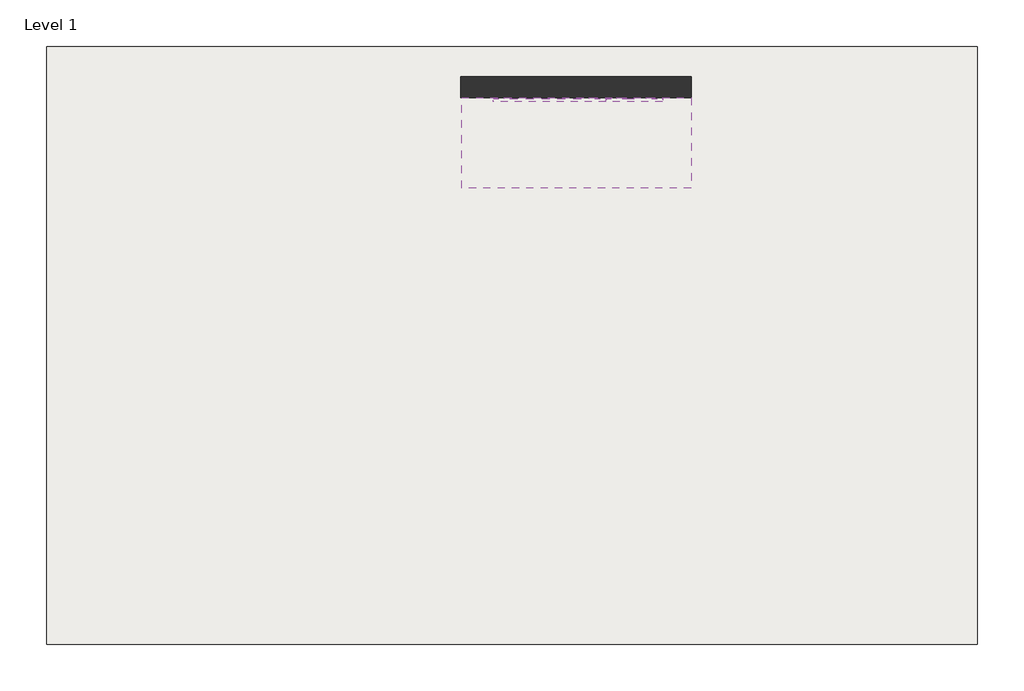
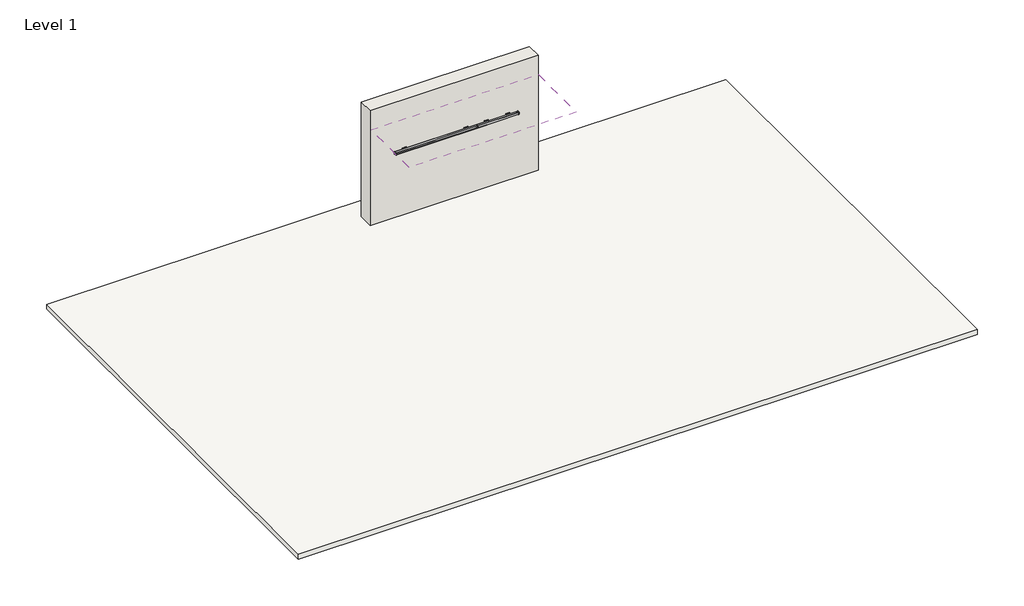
# One storey: 2 light fixtures, 1 covering, 1 slab, 1 wall.
"""IFC4 building model written with IfcOpenShell, lengths in millimetres."""

from ifc_helpers import new_model, si_unit, frame, origin, origin_with_axes, place, context, project, spatial, polyline, outline, extrude, transform, mapped, element, save
from components import lighting_wall_axis_extend_2_a71a7cbf, lighting_wall_axis_extend_2_fdb779e1

model = new_model("IFC4")

# Units and contexts
model_context = context("Model", 3, world=origin())
ifc_project = project(units=[si_unit("LENGTHUNIT", "METRE", prefix="MILLI")], contexts=[model_context])

# Site, building, storey
site = spatial("IfcSite", under=ifc_project)
building = spatial("IfcBuilding", under=site)
storey = spatial("IfcBuildingStorey", under=building, Name="Level 1", Elevation=0.0)

# Covering
placement = place(None, origin())
element("IfcCovering", 1, ObjectType="Plain", at=placement, inside=storey, context=model_context, shape_type="SweptSolid", body=[
    extrude(outline(polyline([(-3780.5571266, 5992.4697047), (1248.6428734, 5992.4697047), (1248.6428734, 4011.2697047), (-3780.5571266, 4011.2697047), (-3780.5571266, 5992.4697047)])), frame((0.0, 0.0, 3048.0), z_axis=(0.0, 0.0, 1.0), x_axis=(1.0, 0.0, 0.0)), (0.0, 0.0, 1.0), 12.7),
])

# Light fixtures
lighting_wall_axis_extend_2_shape = lighting_wall_axis_extend_2_a71a7cbf(model_context)
element("IfcLightFixture", 2, ObjectType="Lighting-Wall-Axis-Extend_2 : EX2WD-900-80-35-SO-4", at=placement, inside=storey, context=model_context, shape_type="MappedRepresentation", body=[
    mapped(lighting_wall_axis_extend_2_shape, transform((-1850.1571266, 5992.4697047, 2046.211651), x_axis=(1.0, 0.0, 0.0), y_axis=(0.0, 0.0, 1.0), z_axis=(0.0, -1.0, 0.0))),
])
lighting_wall_axis_extend_2_2_shape = lighting_wall_axis_extend_2_fdb779e1(model_context)
element("IfcLightFixture", 3, ObjectType="Lighting-Wall-Axis-Extend_2 : EX2WD-900-80-35-SO-4", at=placement, inside=storey, context=model_context, shape_type="MappedRepresentation", body=[
    mapped(lighting_wall_axis_extend_2_2_shape, transform((-3.0437266, 5992.4697047, 2046.211651), x_axis=(1.0, 0.0, 0.0), y_axis=(0.0, 0.0, 1.0), z_axis=(0.0, -1.0, 0.0))),
])

# Slab
element("IfcSlab", 4, ObjectType="Generic 150mm", at=placement, inside=storey, context=model_context, shape_type="SweptSolid", body=[
    extrude(outline(polyline([(7531.7635568, 7118.573374), (7531.7635568, -6007.2851693), (-12889.8364432, -6007.2851693), (-12889.8364432, 7118.573374), (7531.7635568, 7118.573374)])), frame((0.0, 0.0, -150.0), z_axis=(0.0, 0.0, 1.0), x_axis=(1.0, 0.0, 0.0)), (0.0, 0.0, 1.0), 150.0),
])

# Wall
element("IfcWall", 5, ObjectType="Exterior - Block on Mtl. Stud", at=placement, inside=storey, context=model_context, shape_type="SweptSolid", body=[
    extrude(outline(polyline([(1248.6428734, 5992.4697047), (-3805.9571266, 5992.4697047), (-3805.9571266, 6452.4697047), (1248.6428734, 6452.4697047), (1248.6428734, 5992.4697047)])), origin_with_axes(), (0.0, 0.0, 1.0), 3657.6),
])

save(model, "model.ifc")
